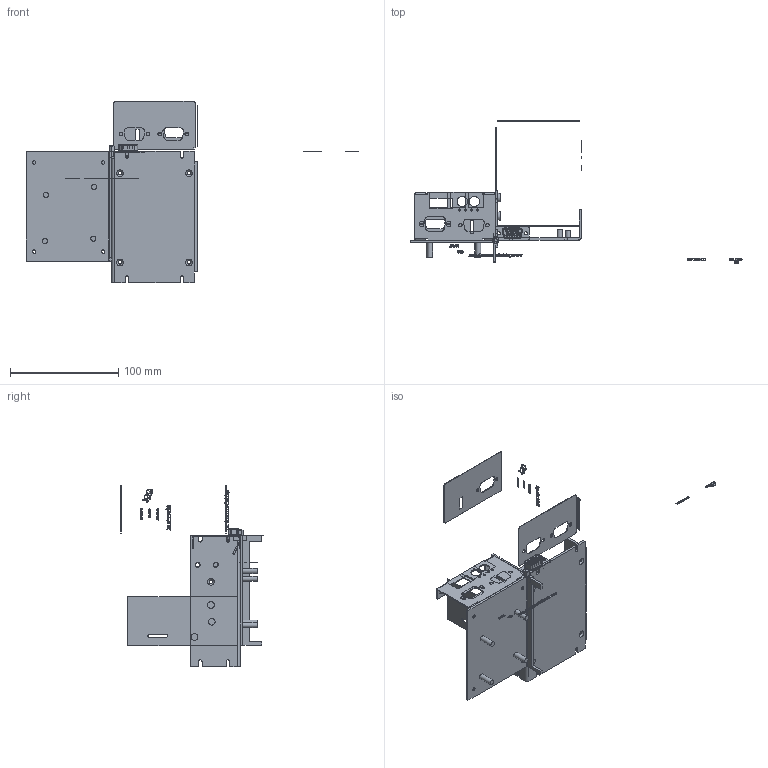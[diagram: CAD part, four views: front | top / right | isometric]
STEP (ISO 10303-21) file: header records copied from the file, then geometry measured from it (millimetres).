
FILE_DESCRIPTION(/* description */ ('Alibre Inc.'),/* implementation_level */ '2;1');
FILE_NAME(/* name */ 'export0',/* time_stamp */ '2008-12-16T10:24:04-08:00',/* author */ (''),/* organization */ (''),/* preprocessor_version */ 'ST-DEVELOPER v10',/* originating_system */ 'Alibre',/* authorisation */ '');
FILE_SCHEMA (('ALIBRE_SCHEMA','CONFIG_CONTROL_DESIGN'));
Length unit declared in the file: inch
Products named in the file (19): ID_1; ID_2; ID_3; ID_4
Bounding box: 306.75 x 132.03 x 167.59 mm (x, y, z)
Volume: 69502.1 mm3; surface area: 97220.1 mm2
Topology: 128 solids, 128 shells, 3642 faces, 9298 edges, 6092 vertices
Faces by surface type: plane 1796, bspline 1054, cylinder 668, torus 108, cone 15, revolution 1
Full cylindrical faces by diameter (mm): 1.883 x4, 2.349 x3, 2.489 x1, 2.515 x8, 2.616 x1, 2.87 x1, 2.921 x3, 3.175 x14, 3.244 x12, 3.81 x2, 4.572 x2, 4.75 x7, 7.874 x2, 9.525 x2
Entity records: 270494 total; most frequent: CARTESIAN_POINT 113776, ORIENTED_EDGE 25610, DIRECTION 18438, EDGE_CURVE 12805, VECTOR 9142, LINE 8434, VERTEX_POINT 8373, PERSISTANTTOPOLOGYATTRIBUTE 7574
